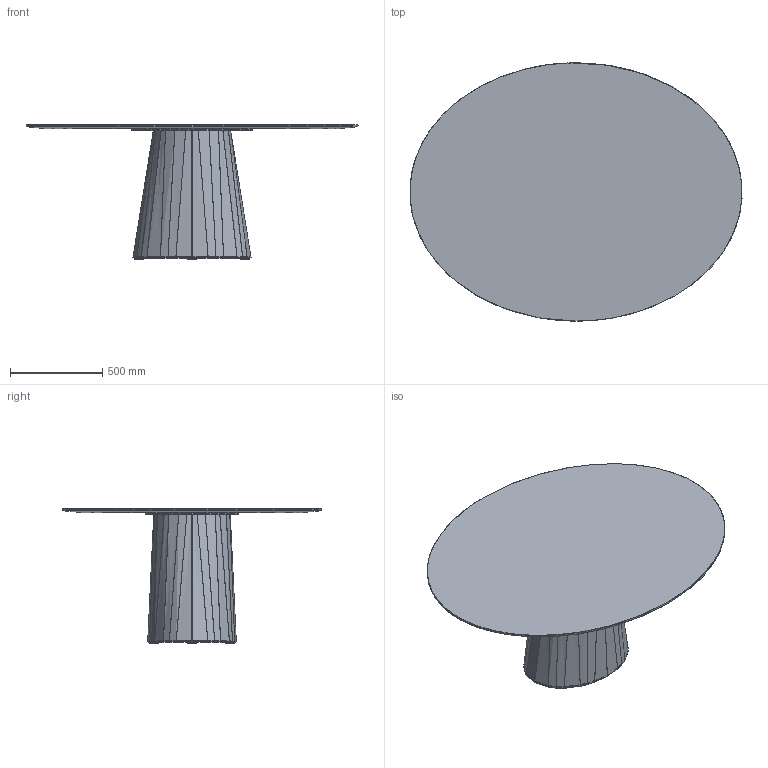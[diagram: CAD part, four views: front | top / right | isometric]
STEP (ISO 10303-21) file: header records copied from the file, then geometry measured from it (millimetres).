
FILE_DESCRIPTION(/* description */ (''),/* implementation_level */ '2;1');
FILE_NAME(/* name */ 'VW_Pli-Table_3D_20231027',/* time_stamp */ '2023-10-27T15:09:16+02:00',/* author */ (''),/* organization */ (''),/* preprocessor_version */ 'ST-DEVELOPER v16.5',/* originating_system */ 'Rhino 7.34',/* authorisation */ '');
FILE_SCHEMA (('CONFIG_CONTROL_DESIGN'));
Length unit declared in the file: millimetre
Products named in the file (1): Document
Bounding box: 1797.78 x 1399.99 x 727 mm (x, y, z)
Volume: 42991325.3 mm3; surface area: 7715815.9 mm2
Topology: 3 solids, 3 shells, 289 faces, 770 edges, 492 vertices
Faces by surface type: bspline 142, plane 103, cylinder 44
Entity records: 15010 total; most frequent: CARTESIAN_POINT 10263, ORIENTED_EDGE 1534, EDGE_CURVE 767, VERTEX_POINT 487, B_SPLINE_CURVE_WITH_KNOTS 455, EDGE_LOOP 298, ADVANCED_FACE 289, FACE_OUTER_BOUND 289
